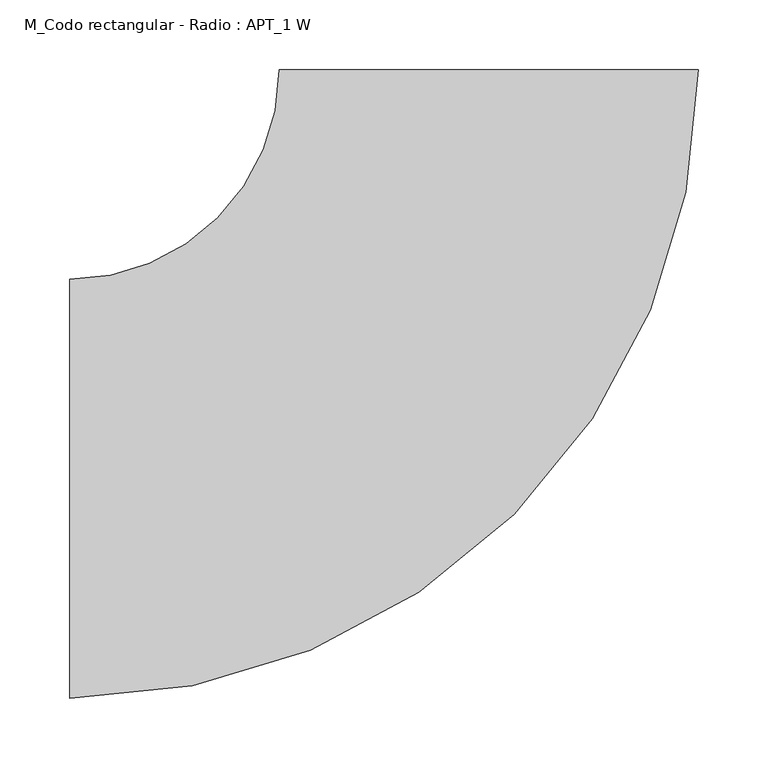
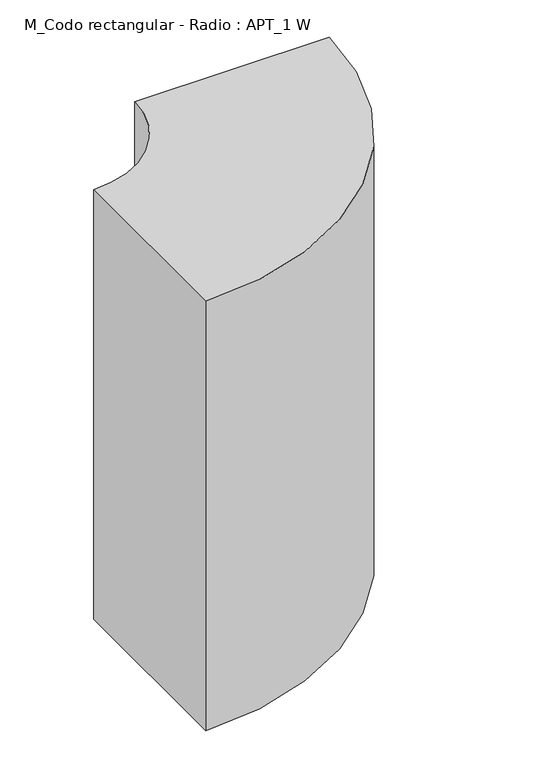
"""IFC4 building model written with IfcOpenShell, lengths in millimetres: duct fitting geometry, M_Codo rectangular - Radio : APT_1 W."""

from ifc_helpers import new_model, si_unit, point, frame, frame_2d, origin, place, context, project, spatial, polyline, circle_curve, trimmed, segment, composite_curve, outline, extrude, source, transform, mapped, element, save


def m_codo_rectangular_radio_apt_1_w_e8427f1b(model_context):
    return source(origin(), model_context, "Body", "SweptSolid", [
        extrude(outline(composite_curve([segment(trimmed(circle_curve(frame_2d((-300.0, 300.0)), 450.0), [point((150.0, 300.0))], [point((-300.0, -150.0))], False, "CARTESIAN"), True, "CONTINUOUS"), segment(polyline([(-300.0, -150.0), (-300.0, 150.0)]), True, "CONTINUOUS"), segment(trimmed(circle_curve(frame_2d((-300.0, 300.0)), 150.0), [point((-300.0, 150.0))], [point((-150.0, 300.0))], True, "CARTESIAN"), True, "CONTINUOUS"), segment(polyline([(-150.0, 300.0), (150.0, 300.0)]), True, "CONTINUOUS")], self_intersect=False)), frame((0.0, 0.0, -350.0), z_axis=(0.0, 0.0, 1.0), x_axis=(1.0, 0.0, 0.0)), (0.0, 0.0, 1.0), 700.0),
    ])


if __name__ == "__main__":
    model = new_model("IFC4")
    model_context = context("Model", 3, world=origin())
    ifc_project = project(units=[si_unit("LENGTHUNIT", "METRE", prefix="MILLI")], contexts=[model_context])
    site = spatial("IfcSite", under=ifc_project)
    building = spatial("IfcBuilding", under=site)
    placement = place(None, origin())
    m_codo_rectangular_radio_apt_1_w_shape = m_codo_rectangular_radio_apt_1_w_e8427f1b(model_context)
    element("IfcDuctFitting", 1, ObjectType="M_Codo rectangular - Radio : APT_1 W", at=placement, inside=building, context=model_context, shape_type="MappedRepresentation", body=[
        mapped(m_codo_rectangular_radio_apt_1_w_shape, transform((0.0, 0.0, 0.0), x_axis=(1.0, 0.0, 0.0), y_axis=(0.0, 1.0, 0.0), z_axis=(0.0, 0.0, 1.0))),
    ])
    save(model, "model.ifc")
